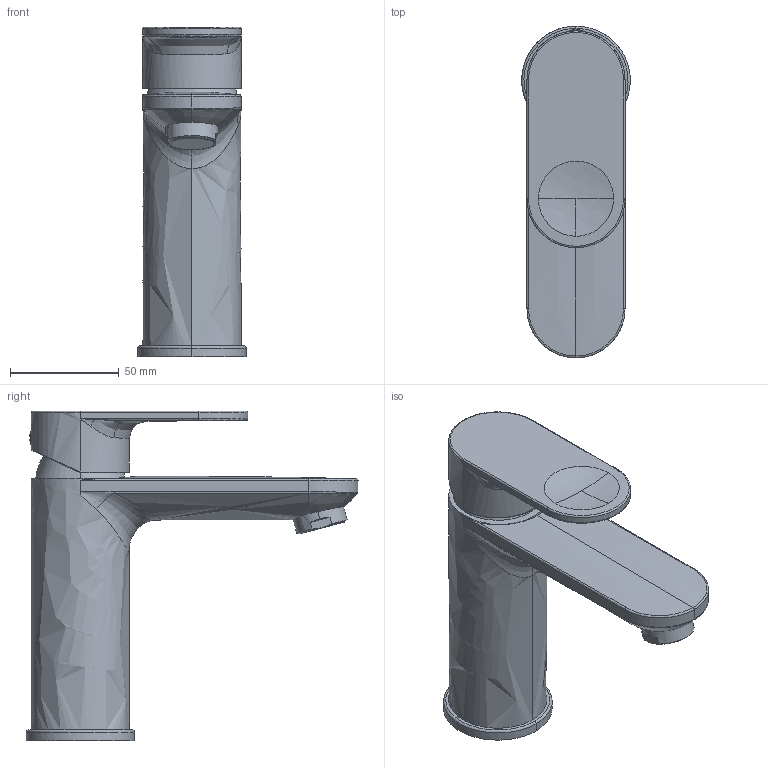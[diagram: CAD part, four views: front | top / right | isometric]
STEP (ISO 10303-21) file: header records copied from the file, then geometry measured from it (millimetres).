
FILE_DESCRIPTION(/* description */ (''),/* implementation_level */ '2;1');
FILE_NAME(/* name */ 'B31010002010',/* time_stamp */ '2019-02-25T12:56:17+01:00',/* author */ (''),/* organization */ (''),/* preprocessor_version */ 'ST-DEVELOPER v15',/* originating_system */ '',/* authorisation */ '');
FILE_SCHEMA (('AUTOMOTIVE_DESIGN'));
Length unit declared in the file: millimetre
Products named in the file (1): Document
Bounding box: 49.77 x 152.4 x 151.35 mm (x, y, z)
Volume: 3738.6 mm3; surface area: 47351.1 mm2
Topology: 1 solids, 6 shells, 115 faces, 286 edges, 179 vertices
Faces by surface type: bspline 115
Entity records: 15562 total; most frequent: CARTESIAN_POINT 12106, B_SPLINE_CURVE_WITH_KNOTS 632, ORIENTED_EDGE 541, PCURVE 541, DEFINITIONAL_REPRESENTATION 541, SURFACE_CURVE 281, EDGE_CURVE 281, VERTEX_POINT 179
